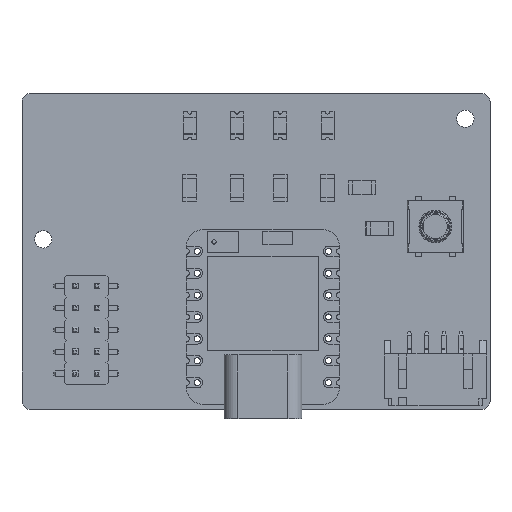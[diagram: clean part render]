
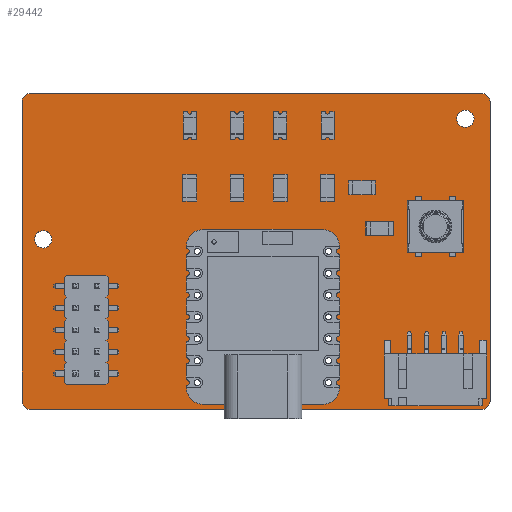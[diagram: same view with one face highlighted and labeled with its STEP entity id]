
A CAD part, top view. The second image highlights one B-rep face of the part: STEP entity #29442.
In plain terms, the highlighted planar face has unit normal (0, 0, 1).
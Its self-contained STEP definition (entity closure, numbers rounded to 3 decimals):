
#29117 = VERTEX_POINT('',#29118);
#29118 = CARTESIAN_POINT('',(153.35,-55.535,1.51));
#29124 = EDGE_CURVE('',#29117,#29125,#29127,.T.);
#29125 = VERTEX_POINT('',#29126);
#29126 = CARTESIAN_POINT('',(154.35,-56.535,1.51));
#29127 = CIRCLE('',#29128,1.);
#29128 = AXIS2_PLACEMENT_3D('',#29129,#29130,#29131);
#29129 = CARTESIAN_POINT('',(153.35,-56.535,1.51));
#29130 = DIRECTION('',(0.,0.,-1.));
#29131 = DIRECTION('',(0.,1.,0.));
#29159 = VERTEX_POINT('',#29160);
#29160 = CARTESIAN_POINT('',(101.039,-55.535,1.51));
#29166 = EDGE_CURVE('',#29159,#29117,#29167,.T.);
#29167 = LINE('',#29168,#29169);
#29168 = CARTESIAN_POINT('',(101.039,-55.535,1.51));
#29169 = VECTOR('',#29170,1.);
#29170 = DIRECTION('',(1.,0.,0.));
#29188 = EDGE_CURVE('',#29125,#29189,#29191,.T.);
#29189 = VERTEX_POINT('',#29190);
#29190 = CARTESIAN_POINT('',(154.35,-91.25,1.51));
#29191 = LINE('',#29192,#29193);
#29192 = CARTESIAN_POINT('',(154.35,-56.535,1.51));
#29193 = VECTOR('',#29194,1.);
#29194 = DIRECTION('',(0.,-1.,0.));
#29442 = ADVANCED_FACE('',(#29443,#29489,#29500,#29511,#29522,#29533,
    #29544,#29555,#29566,#29577,#29588,#29599,#29610,#29621,#29632,
    #29643,#29654),#29665,.T.);
#29443 = FACE_BOUND('',#29444,.T.);
#29444 = EDGE_LOOP('',(#29445,#29446,#29447,#29456,#29464,#29473,#29481,
    #29488));
#29445 = ORIENTED_EDGE('',*,*,#29124,.F.);
#29446 = ORIENTED_EDGE('',*,*,#29166,.F.);
#29447 = ORIENTED_EDGE('',*,*,#29448,.F.);
#29448 = EDGE_CURVE('',#29449,#29159,#29451,.T.);
#29449 = VERTEX_POINT('',#29450);
#29450 = CARTESIAN_POINT('',(100.039,-56.535,1.51));
#29451 = CIRCLE('',#29452,1.);
#29452 = AXIS2_PLACEMENT_3D('',#29453,#29454,#29455);
#29453 = CARTESIAN_POINT('',(101.039,-56.535,1.51));
#29454 = DIRECTION('',(0.,0.,-1.));
#29455 = DIRECTION('',(-1.,0.,-0.));
#29456 = ORIENTED_EDGE('',*,*,#29457,.F.);
#29457 = EDGE_CURVE('',#29458,#29449,#29460,.T.);
#29458 = VERTEX_POINT('',#29459);
#29459 = CARTESIAN_POINT('',(100.039,-91.25,1.51));
#29460 = LINE('',#29461,#29462);
#29461 = CARTESIAN_POINT('',(100.039,-91.25,1.51));
#29462 = VECTOR('',#29463,1.);
#29463 = DIRECTION('',(0.,1.,0.));
#29464 = ORIENTED_EDGE('',*,*,#29465,.F.);
#29465 = EDGE_CURVE('',#29466,#29458,#29468,.T.);
#29466 = VERTEX_POINT('',#29467);
#29467 = CARTESIAN_POINT('',(101.039,-92.25,1.51));
#29468 = CIRCLE('',#29469,1.);
#29469 = AXIS2_PLACEMENT_3D('',#29470,#29471,#29472);
#29470 = CARTESIAN_POINT('',(101.039,-91.25,1.51));
#29471 = DIRECTION('',(0.,0.,-1.));
#29472 = DIRECTION('',(0.,-1.,0.));
#29473 = ORIENTED_EDGE('',*,*,#29474,.F.);
#29474 = EDGE_CURVE('',#29475,#29466,#29477,.T.);
#29475 = VERTEX_POINT('',#29476);
#29476 = CARTESIAN_POINT('',(153.35,-92.25,1.51));
#29477 = LINE('',#29478,#29479);
#29478 = CARTESIAN_POINT('',(153.35,-92.25,1.51));
#29479 = VECTOR('',#29480,1.);
#29480 = DIRECTION('',(-1.,0.,0.));
#29481 = ORIENTED_EDGE('',*,*,#29482,.F.);
#29482 = EDGE_CURVE('',#29189,#29475,#29483,.T.);
#29483 = CIRCLE('',#29484,1.);
#29484 = AXIS2_PLACEMENT_3D('',#29485,#29486,#29487);
#29485 = CARTESIAN_POINT('',(153.35,-91.25,1.51));
#29486 = DIRECTION('',(0.,0.,-1.));
#29487 = DIRECTION('',(1.,0.,0.));
#29488 = ORIENTED_EDGE('',*,*,#29188,.F.);
#29489 = FACE_BOUND('',#29490,.T.);
#29490 = EDGE_LOOP('',(#29491));
#29491 = ORIENTED_EDGE('',*,*,#29492,.T.);
#29492 = EDGE_CURVE('',#29493,#29493,#29495,.T.);
#29493 = VERTEX_POINT('',#29494);
#29494 = CARTESIAN_POINT('',(120.38,-89.52,1.51));
#29495 = CIRCLE('',#29496,0.4);
#29496 = AXIS2_PLACEMENT_3D('',#29497,#29498,#29499);
#29497 = CARTESIAN_POINT('',(120.38,-89.12,1.51));
#29498 = DIRECTION('',(-0.,0.,-1.));
#29499 = DIRECTION('',(-0.,-1.,0.));
#29500 = FACE_BOUND('',#29501,.T.);
#29501 = EDGE_LOOP('',(#29502));
#29502 = ORIENTED_EDGE('',*,*,#29503,.T.);
#29503 = EDGE_CURVE('',#29504,#29504,#29506,.T.);
#29504 = VERTEX_POINT('',#29505);
#29505 = CARTESIAN_POINT('',(120.38,-86.98,1.51));
#29506 = CIRCLE('',#29507,0.4);
#29507 = AXIS2_PLACEMENT_3D('',#29508,#29509,#29510);
#29508 = CARTESIAN_POINT('',(120.38,-86.58,1.51));
#29509 = DIRECTION('',(-0.,0.,-1.));
#29510 = DIRECTION('',(-0.,-1.,0.));
#29511 = FACE_BOUND('',#29512,.T.);
#29512 = EDGE_LOOP('',(#29513));
#29513 = ORIENTED_EDGE('',*,*,#29514,.T.);
#29514 = EDGE_CURVE('',#29515,#29515,#29517,.T.);
#29515 = VERTEX_POINT('',#29516);
#29516 = CARTESIAN_POINT('',(120.38,-84.44,1.51));
#29517 = CIRCLE('',#29518,0.4);
#29518 = AXIS2_PLACEMENT_3D('',#29519,#29520,#29521);
#29519 = CARTESIAN_POINT('',(120.38,-84.04,1.51));
#29520 = DIRECTION('',(-0.,0.,-1.));
#29521 = DIRECTION('',(-0.,-1.,0.));
#29522 = FACE_BOUND('',#29523,.T.);
#29523 = EDGE_LOOP('',(#29524));
#29524 = ORIENTED_EDGE('',*,*,#29525,.T.);
#29525 = EDGE_CURVE('',#29526,#29526,#29528,.T.);
#29526 = VERTEX_POINT('',#29527);
#29527 = CARTESIAN_POINT('',(120.38,-81.9,1.51));
#29528 = CIRCLE('',#29529,0.4);
#29529 = AXIS2_PLACEMENT_3D('',#29530,#29531,#29532);
#29530 = CARTESIAN_POINT('',(120.38,-81.5,1.51));
#29531 = DIRECTION('',(-0.,0.,-1.));
#29532 = DIRECTION('',(-0.,-1.,0.));
#29533 = FACE_BOUND('',#29534,.T.);
#29534 = EDGE_LOOP('',(#29535));
#29535 = ORIENTED_EDGE('',*,*,#29536,.T.);
#29536 = EDGE_CURVE('',#29537,#29537,#29539,.T.);
#29537 = VERTEX_POINT('',#29538);
#29538 = CARTESIAN_POINT('',(120.38,-79.36,1.51));
#29539 = CIRCLE('',#29540,0.4);
#29540 = AXIS2_PLACEMENT_3D('',#29541,#29542,#29543);
#29541 = CARTESIAN_POINT('',(120.38,-78.96,1.51));
#29542 = DIRECTION('',(-0.,0.,-1.));
#29543 = DIRECTION('',(-0.,-1.,0.));
#29544 = FACE_BOUND('',#29545,.T.);
#29545 = EDGE_LOOP('',(#29546));
#29546 = ORIENTED_EDGE('',*,*,#29547,.T.);
#29547 = EDGE_CURVE('',#29548,#29548,#29550,.T.);
#29548 = VERTEX_POINT('',#29549);
#29549 = CARTESIAN_POINT('',(120.38,-76.82,1.51));
#29550 = CIRCLE('',#29551,0.4);
#29551 = AXIS2_PLACEMENT_3D('',#29552,#29553,#29554);
#29552 = CARTESIAN_POINT('',(120.38,-76.42,1.51));
#29553 = DIRECTION('',(-0.,0.,-1.));
#29554 = DIRECTION('',(-0.,-1.,0.));
#29555 = FACE_BOUND('',#29556,.T.);
#29556 = EDGE_LOOP('',(#29557));
#29557 = ORIENTED_EDGE('',*,*,#29558,.T.);
#29558 = EDGE_CURVE('',#29559,#29559,#29561,.T.);
#29559 = VERTEX_POINT('',#29560);
#29560 = CARTESIAN_POINT('',(120.38,-74.28,1.51));
#29561 = CIRCLE('',#29562,0.4);
#29562 = AXIS2_PLACEMENT_3D('',#29563,#29564,#29565);
#29563 = CARTESIAN_POINT('',(120.38,-73.88,1.51));
#29564 = DIRECTION('',(-0.,0.,-1.));
#29565 = DIRECTION('',(-0.,-1.,0.));
#29566 = FACE_BOUND('',#29567,.T.);
#29567 = EDGE_LOOP('',(#29568));
#29568 = ORIENTED_EDGE('',*,*,#29569,.T.);
#29569 = EDGE_CURVE('',#29570,#29570,#29572,.T.);
#29570 = VERTEX_POINT('',#29571);
#29571 = CARTESIAN_POINT('',(135.615,-89.52,1.51));
#29572 = CIRCLE('',#29573,0.4);
#29573 = AXIS2_PLACEMENT_3D('',#29574,#29575,#29576);
#29574 = CARTESIAN_POINT('',(135.615,-89.12,1.51));
#29575 = DIRECTION('',(-0.,0.,-1.));
#29576 = DIRECTION('',(-0.,-1.,0.));
#29577 = FACE_BOUND('',#29578,.T.);
#29578 = EDGE_LOOP('',(#29579));
#29579 = ORIENTED_EDGE('',*,*,#29580,.T.);
#29580 = EDGE_CURVE('',#29581,#29581,#29583,.T.);
#29581 = VERTEX_POINT('',#29582);
#29582 = CARTESIAN_POINT('',(135.615,-86.98,1.51));
#29583 = CIRCLE('',#29584,0.4);
#29584 = AXIS2_PLACEMENT_3D('',#29585,#29586,#29587);
#29585 = CARTESIAN_POINT('',(135.615,-86.58,1.51));
#29586 = DIRECTION('',(-0.,0.,-1.));
#29587 = DIRECTION('',(-0.,-1.,0.));
#29588 = FACE_BOUND('',#29589,.T.);
#29589 = EDGE_LOOP('',(#29590));
#29590 = ORIENTED_EDGE('',*,*,#29591,.T.);
#29591 = EDGE_CURVE('',#29592,#29592,#29594,.T.);
#29592 = VERTEX_POINT('',#29593);
#29593 = CARTESIAN_POINT('',(135.615,-84.44,1.51));
#29594 = CIRCLE('',#29595,0.4);
#29595 = AXIS2_PLACEMENT_3D('',#29596,#29597,#29598);
#29596 = CARTESIAN_POINT('',(135.615,-84.04,1.51));
#29597 = DIRECTION('',(-0.,0.,-1.));
#29598 = DIRECTION('',(-0.,-1.,0.));
#29599 = FACE_BOUND('',#29600,.T.);
#29600 = EDGE_LOOP('',(#29601));
#29601 = ORIENTED_EDGE('',*,*,#29602,.T.);
#29602 = EDGE_CURVE('',#29603,#29603,#29605,.T.);
#29603 = VERTEX_POINT('',#29604);
#29604 = CARTESIAN_POINT('',(135.615,-81.9,1.51));
#29605 = CIRCLE('',#29606,0.4);
#29606 = AXIS2_PLACEMENT_3D('',#29607,#29608,#29609);
#29607 = CARTESIAN_POINT('',(135.615,-81.5,1.51));
#29608 = DIRECTION('',(-0.,0.,-1.));
#29609 = DIRECTION('',(-0.,-1.,0.));
#29610 = FACE_BOUND('',#29611,.T.);
#29611 = EDGE_LOOP('',(#29612));
#29612 = ORIENTED_EDGE('',*,*,#29613,.T.);
#29613 = EDGE_CURVE('',#29614,#29614,#29616,.T.);
#29614 = VERTEX_POINT('',#29615);
#29615 = CARTESIAN_POINT('',(135.615,-79.36,1.51));
#29616 = CIRCLE('',#29617,0.4);
#29617 = AXIS2_PLACEMENT_3D('',#29618,#29619,#29620);
#29618 = CARTESIAN_POINT('',(135.615,-78.96,1.51));
#29619 = DIRECTION('',(-0.,0.,-1.));
#29620 = DIRECTION('',(-0.,-1.,0.));
#29621 = FACE_BOUND('',#29622,.T.);
#29622 = EDGE_LOOP('',(#29623));
#29623 = ORIENTED_EDGE('',*,*,#29624,.T.);
#29624 = EDGE_CURVE('',#29625,#29625,#29627,.T.);
#29625 = VERTEX_POINT('',#29626);
#29626 = CARTESIAN_POINT('',(135.615,-76.82,1.51));
#29627 = CIRCLE('',#29628,0.4);
#29628 = AXIS2_PLACEMENT_3D('',#29629,#29630,#29631);
#29629 = CARTESIAN_POINT('',(135.615,-76.42,1.51));
#29630 = DIRECTION('',(-0.,0.,-1.));
#29631 = DIRECTION('',(-0.,-1.,0.));
#29632 = FACE_BOUND('',#29633,.T.);
#29633 = EDGE_LOOP('',(#29634));
#29634 = ORIENTED_EDGE('',*,*,#29635,.T.);
#29635 = EDGE_CURVE('',#29636,#29636,#29638,.T.);
#29636 = VERTEX_POINT('',#29637);
#29637 = CARTESIAN_POINT('',(135.615,-74.28,1.51));
#29638 = CIRCLE('',#29639,0.4);
#29639 = AXIS2_PLACEMENT_3D('',#29640,#29641,#29642);
#29640 = CARTESIAN_POINT('',(135.615,-73.88,1.51));
#29641 = DIRECTION('',(-0.,0.,-1.));
#29642 = DIRECTION('',(-0.,-1.,0.));
#29643 = FACE_BOUND('',#29644,.T.);
#29644 = EDGE_LOOP('',(#29645));
#29645 = ORIENTED_EDGE('',*,*,#29646,.F.);
#29646 = EDGE_CURVE('',#29647,#29647,#29649,.T.);
#29647 = VERTEX_POINT('',#29648);
#29648 = CARTESIAN_POINT('',(103.5,-72.5,1.51));
#29649 = CIRCLE('',#29650,1.);
#29650 = AXIS2_PLACEMENT_3D('',#29651,#29652,#29653);
#29651 = CARTESIAN_POINT('',(102.5,-72.5,1.51));
#29652 = DIRECTION('',(0.,0.,1.));
#29653 = DIRECTION('',(1.,0.,-0.));
#29654 = FACE_BOUND('',#29655,.T.);
#29655 = EDGE_LOOP('',(#29656));
#29656 = ORIENTED_EDGE('',*,*,#29657,.F.);
#29657 = EDGE_CURVE('',#29658,#29658,#29660,.T.);
#29658 = VERTEX_POINT('',#29659);
#29659 = CARTESIAN_POINT('',(152.5,-58.5,1.51));
#29660 = CIRCLE('',#29661,1.);
#29661 = AXIS2_PLACEMENT_3D('',#29662,#29663,#29664);
#29662 = CARTESIAN_POINT('',(151.5,-58.5,1.51));
#29663 = DIRECTION('',(0.,0.,1.));
#29664 = DIRECTION('',(1.,0.,-0.));
#29665 = PLANE('',#29666);
#29666 = AXIS2_PLACEMENT_3D('',#29667,#29668,#29669);
#29667 = CARTESIAN_POINT('',(0.,0.,1.51));
#29668 = DIRECTION('',(0.,0.,1.));
#29669 = DIRECTION('',(1.,0.,-0.));
